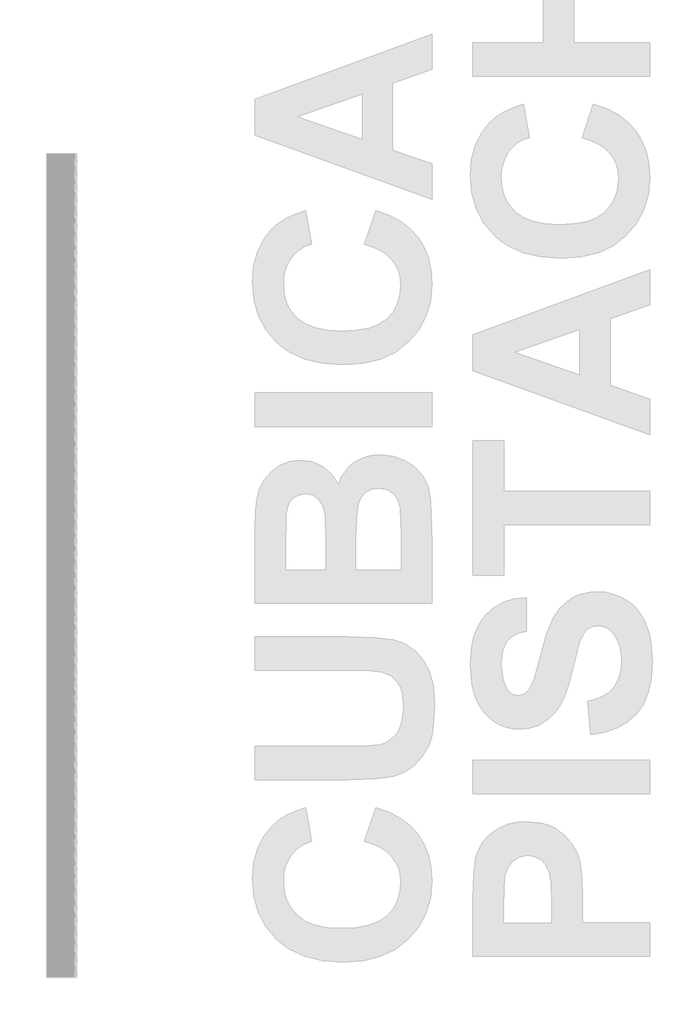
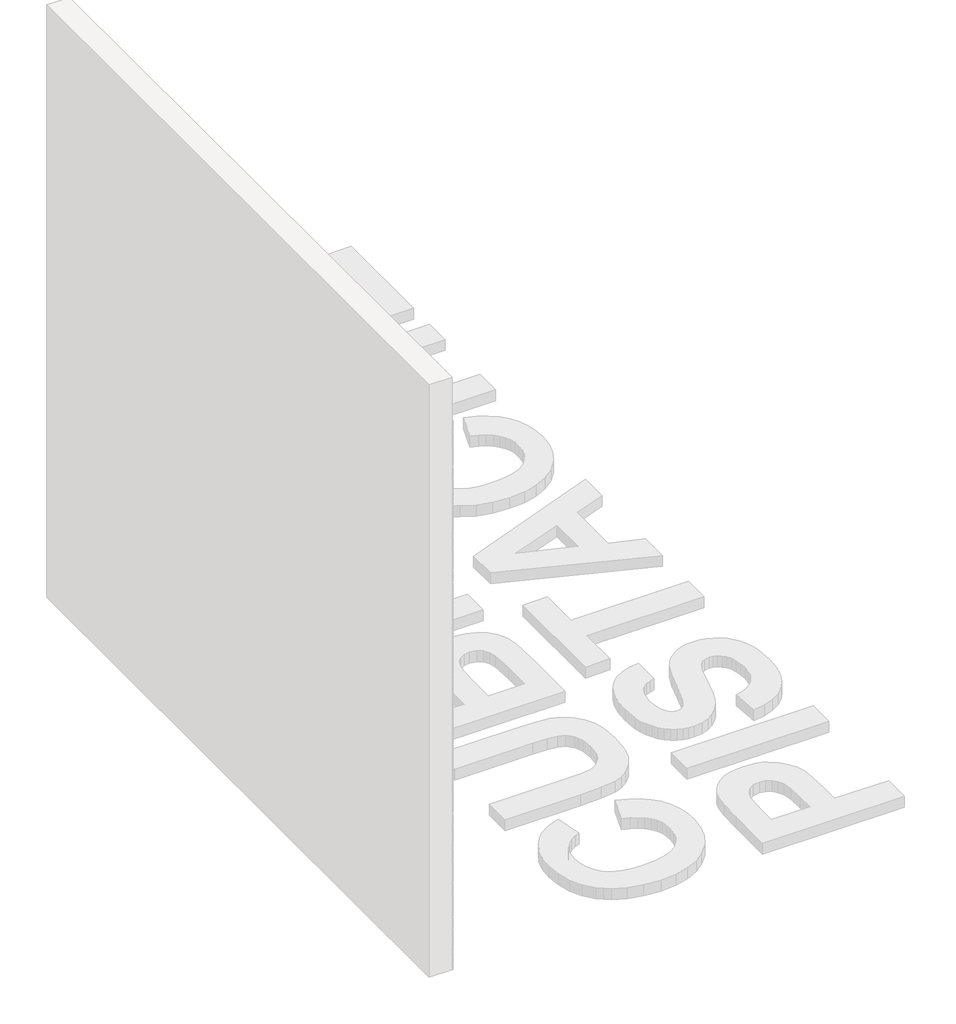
# One storey, part 76 of 121: 145 proxies.
"""IFC4 building model written with IfcOpenShell, lengths in millimetres."""

from ifc_helpers import new_model, si_unit, origin, place, context, project, spatial, transform, mapped, element, save
from components import generic_models_b2b2c5c1, generic_models_9bf73f6f, generic_models_5d175859

model = new_model("IFC4")

# Units and contexts
model_context = context("Model", 3, world=origin())
ifc_project = project(units=[si_unit("LENGTHUNIT", "METRE", prefix="MILLI")], contexts=[model_context])

# Site, building, storey
site = spatial("IfcSite", under=ifc_project)
building = spatial("IfcBuilding", under=site)
storey = spatial("IfcBuildingStorey", under=building, Name="PORTOBELLO - SHOWROOM", Elevation=0.0)

# Proxies
placement = place(None, origin())
generic_models_shape = generic_models_b2b2c5c1(model_context)
element("IfcBuildingElementProxy", 1, Name="PBSHOP - CUBICA PISTACHE 4,8X8,3 : CUBICA PISTACHE - POSIÇÃO 01", ObjectType="PBSHOP - CUBICA PISTACHE 4,8X8,3 : CUBICA PISTACHE - POSIÇÃO 01", at=placement, inside=storey, context=model_context, shape_type="MappedRepresentation", body=[
    mapped(generic_models_shape, transform((150369.5341846, 13932.0386111, 118.3568052), x_axis=(0.0, 1.0, 0.0), y_axis=(0.0, 0.0, 1.0), z_axis=(1.0, 0.0, 0.0))),
])
element("IfcBuildingElementProxy", 2, Name="PBSHOP - CUBICA PISTACHE 4,8X8,3 : CUBICA PISTACHE - POSIÇÃO 01", ObjectType="PBSHOP - CUBICA PISTACHE 4,8X8,3 : CUBICA PISTACHE - POSIÇÃO 01", at=placement, inside=storey, context=model_context, shape_type="MappedRepresentation", body=[
    mapped(generic_models_shape, transform((150369.5341846, 13069.0655533, 197.2914436), x_axis=(0.0, 1.0, 0.0), y_axis=(0.0, 0.0, 1.0), z_axis=(1.0, 0.0, 0.0))),
])
element("IfcBuildingElementProxy", 3, Name="PBSHOP - CUBICA PISTACHE 4,8X8,3 : CUBICA PISTACHE - POSIÇÃO 01", ObjectType="PBSHOP - CUBICA PISTACHE 4,8X8,3 : CUBICA PISTACHE - POSIÇÃO 01", at=placement, inside=storey, context=model_context, shape_type="MappedRepresentation", body=[
    mapped(generic_models_shape, transform((150369.5341846, 13159.9048225, 197.2914436), x_axis=(0.0, 1.0, 0.0), y_axis=(0.0, 0.0, 1.0), z_axis=(1.0, 0.0, 0.0))),
])
element("IfcBuildingElementProxy", 4, Name="PBSHOP - CUBICA PISTACHE 4,8X8,3 : CUBICA PISTACHE - POSIÇÃO 01", ObjectType="PBSHOP - CUBICA PISTACHE 4,8X8,3 : CUBICA PISTACHE - POSIÇÃO 01", at=placement, inside=storey, context=model_context, shape_type="MappedRepresentation", body=[
    mapped(generic_models_shape, transform((150369.5341846, 13250.7440918, 197.2914436), x_axis=(0.0, 1.0, 0.0), y_axis=(0.0, 0.0, 1.0), z_axis=(1.0, 0.0, 0.0))),
])
element("IfcBuildingElementProxy", 5, Name="PBSHOP - CUBICA PISTACHE 4,8X8,3 : CUBICA PISTACHE - POSIÇÃO 01", ObjectType="PBSHOP - CUBICA PISTACHE 4,8X8,3 : CUBICA PISTACHE - POSIÇÃO 01", at=placement, inside=storey, context=model_context, shape_type="MappedRepresentation", body=[
    mapped(generic_models_shape, transform((150369.5341846, 13341.583361, 197.2914436), x_axis=(0.0, 1.0, 0.0), y_axis=(0.0, 0.0, 1.0), z_axis=(1.0, 0.0, 0.0))),
])
element("IfcBuildingElementProxy", 6, Name="PBSHOP - CUBICA PISTACHE 4,8X8,3 : CUBICA PISTACHE - POSIÇÃO 01", ObjectType="PBSHOP - CUBICA PISTACHE 4,8X8,3 : CUBICA PISTACHE - POSIÇÃO 01", at=placement, inside=storey, context=model_context, shape_type="MappedRepresentation", body=[
    mapped(generic_models_shape, transform((150369.5341846, 13432.4226303, 197.2914436), x_axis=(0.0, 1.0, 0.0), y_axis=(0.0, 0.0, 1.0), z_axis=(1.0, 0.0, 0.0))),
])
element("IfcBuildingElementProxy", 7, Name="PBSHOP - CUBICA PISTACHE 4,8X8,3 : CUBICA PISTACHE - POSIÇÃO 01", ObjectType="PBSHOP - CUBICA PISTACHE 4,8X8,3 : CUBICA PISTACHE - POSIÇÃO 01", at=placement, inside=storey, context=model_context, shape_type="MappedRepresentation", body=[
    mapped(generic_models_shape, transform((150369.5341846, 13523.2618995, 197.2914436), x_axis=(0.0, 1.0, 0.0), y_axis=(0.0, 0.0, 1.0), z_axis=(1.0, 0.0, 0.0))),
])
element("IfcBuildingElementProxy", 8, Name="PBSHOP - CUBICA PISTACHE 4,8X8,3 : CUBICA PISTACHE - POSIÇÃO 01", ObjectType="PBSHOP - CUBICA PISTACHE 4,8X8,3 : CUBICA PISTACHE - POSIÇÃO 01", at=placement, inside=storey, context=model_context, shape_type="MappedRepresentation", body=[
    mapped(generic_models_shape, transform((150369.5341846, 13614.1011688, 197.2914436), x_axis=(0.0, 1.0, 0.0), y_axis=(0.0, 0.0, 1.0), z_axis=(1.0, 0.0, 0.0))),
])
element("IfcBuildingElementProxy", 9, Name="PBSHOP - CUBICA PISTACHE 4,8X8,3 : CUBICA PISTACHE - POSIÇÃO 01", ObjectType="PBSHOP - CUBICA PISTACHE 4,8X8,3 : CUBICA PISTACHE - POSIÇÃO 01", at=placement, inside=storey, context=model_context, shape_type="MappedRepresentation", body=[
    mapped(generic_models_shape, transform((150369.5341846, 13704.940438, 197.2914436), x_axis=(0.0, 1.0, 0.0), y_axis=(0.0, 0.0, 1.0), z_axis=(1.0, 0.0, 0.0))),
])
element("IfcBuildingElementProxy", 10, Name="PBSHOP - CUBICA PISTACHE 4,8X8,3 : CUBICA PISTACHE - POSIÇÃO 01", ObjectType="PBSHOP - CUBICA PISTACHE 4,8X8,3 : CUBICA PISTACHE - POSIÇÃO 01", at=placement, inside=storey, context=model_context, shape_type="MappedRepresentation", body=[
    mapped(generic_models_shape, transform((150369.5341846, 13795.7797073, 197.2914436), x_axis=(0.0, 1.0, 0.0), y_axis=(0.0, 0.0, 1.0), z_axis=(1.0, 0.0, 0.0))),
])
element("IfcBuildingElementProxy", 11, Name="PBSHOP - CUBICA PISTACHE 4,8X8,3 : CUBICA PISTACHE - POSIÇÃO 01", ObjectType="PBSHOP - CUBICA PISTACHE 4,8X8,3 : CUBICA PISTACHE - POSIÇÃO 01", at=placement, inside=storey, context=model_context, shape_type="MappedRepresentation", body=[
    mapped(generic_models_shape, transform((150369.5341846, 13886.6189765, 197.2914436), x_axis=(0.0, 1.0, 0.0), y_axis=(0.0, 0.0, 1.0), z_axis=(1.0, 0.0, 0.0))),
])
element("IfcBuildingElementProxy", 12, Name="PBSHOP - CUBICA PISTACHE 4,8X8,3 : CUBICA PISTACHE - POSIÇÃO 01", ObjectType="PBSHOP - CUBICA PISTACHE 4,8X8,3 : CUBICA PISTACHE - POSIÇÃO 01", at=placement, inside=storey, context=model_context, shape_type="MappedRepresentation", body=[
    mapped(generic_models_shape, transform((150369.5341846, 13977.4582457, 197.2914436), x_axis=(0.0, 1.0, 0.0), y_axis=(0.0, 0.0, 1.0), z_axis=(1.0, 0.0, 0.0))),
])
element("IfcBuildingElementProxy", 13, Name="PBSHOP - CUBICA PISTACHE 4,8X8,3 : CUBICA PISTACHE - POSIÇÃO 01", ObjectType="PBSHOP - CUBICA PISTACHE 4,8X8,3 : CUBICA PISTACHE - POSIÇÃO 01", at=placement, inside=storey, context=model_context, shape_type="MappedRepresentation", body=[
    mapped(generic_models_shape, transform((150369.5341846, 13023.6459187, 276.2260819), x_axis=(0.0, 1.0, 0.0), y_axis=(0.0, 0.0, 1.0), z_axis=(1.0, 0.0, 0.0))),
])
element("IfcBuildingElementProxy", 14, Name="PBSHOP - CUBICA PISTACHE 4,8X8,3 : CUBICA PISTACHE - POSIÇÃO 01", ObjectType="PBSHOP - CUBICA PISTACHE 4,8X8,3 : CUBICA PISTACHE - POSIÇÃO 01", at=placement, inside=storey, context=model_context, shape_type="MappedRepresentation", body=[
    mapped(generic_models_shape, transform((150369.5341846, 13114.4851879, 276.2260819), x_axis=(0.0, 1.0, 0.0), y_axis=(0.0, 0.0, 1.0), z_axis=(1.0, 0.0, 0.0))),
])
element("IfcBuildingElementProxy", 15, Name="PBSHOP - CUBICA PISTACHE 4,8X8,3 : CUBICA PISTACHE - POSIÇÃO 01", ObjectType="PBSHOP - CUBICA PISTACHE 4,8X8,3 : CUBICA PISTACHE - POSIÇÃO 01", at=placement, inside=storey, context=model_context, shape_type="MappedRepresentation", body=[
    mapped(generic_models_shape, transform((150369.5341846, 13205.3244572, 276.2260819), x_axis=(0.0, 1.0, 0.0), y_axis=(0.0, 0.0, 1.0), z_axis=(1.0, 0.0, 0.0))),
])
element("IfcBuildingElementProxy", 16, Name="PBSHOP - CUBICA PISTACHE 4,8X8,3 : CUBICA PISTACHE - POSIÇÃO 01", ObjectType="PBSHOP - CUBICA PISTACHE 4,8X8,3 : CUBICA PISTACHE - POSIÇÃO 01", at=placement, inside=storey, context=model_context, shape_type="MappedRepresentation", body=[
    mapped(generic_models_shape, transform((150369.5341846, 13296.1637264, 276.2260819), x_axis=(0.0, 1.0, 0.0), y_axis=(0.0, 0.0, 1.0), z_axis=(1.0, 0.0, 0.0))),
])
element("IfcBuildingElementProxy", 17, Name="PBSHOP - CUBICA PISTACHE 4,8X8,3 : CUBICA PISTACHE - POSIÇÃO 01", ObjectType="PBSHOP - CUBICA PISTACHE 4,8X8,3 : CUBICA PISTACHE - POSIÇÃO 01", at=placement, inside=storey, context=model_context, shape_type="MappedRepresentation", body=[
    mapped(generic_models_shape, transform((150369.5341846, 13387.0029957, 276.2260819), x_axis=(0.0, 1.0, 0.0), y_axis=(0.0, 0.0, 1.0), z_axis=(1.0, 0.0, 0.0))),
])
element("IfcBuildingElementProxy", 18, Name="PBSHOP - CUBICA PISTACHE 4,8X8,3 : CUBICA PISTACHE - POSIÇÃO 01", ObjectType="PBSHOP - CUBICA PISTACHE 4,8X8,3 : CUBICA PISTACHE - POSIÇÃO 01", at=placement, inside=storey, context=model_context, shape_type="MappedRepresentation", body=[
    mapped(generic_models_shape, transform((150369.5341846, 13477.8422649, 276.2260819), x_axis=(0.0, 1.0, 0.0), y_axis=(0.0, 0.0, 1.0), z_axis=(1.0, 0.0, 0.0))),
])
element("IfcBuildingElementProxy", 19, Name="PBSHOP - CUBICA PISTACHE 4,8X8,3 : CUBICA PISTACHE - POSIÇÃO 01", ObjectType="PBSHOP - CUBICA PISTACHE 4,8X8,3 : CUBICA PISTACHE - POSIÇÃO 01", at=placement, inside=storey, context=model_context, shape_type="MappedRepresentation", body=[
    mapped(generic_models_shape, transform((150369.5341846, 13568.6815341, 276.2260819), x_axis=(0.0, 1.0, 0.0), y_axis=(0.0, 0.0, 1.0), z_axis=(1.0, 0.0, 0.0))),
])
element("IfcBuildingElementProxy", 20, Name="PBSHOP - CUBICA PISTACHE 4,8X8,3 : CUBICA PISTACHE - POSIÇÃO 01", ObjectType="PBSHOP - CUBICA PISTACHE 4,8X8,3 : CUBICA PISTACHE - POSIÇÃO 01", at=placement, inside=storey, context=model_context, shape_type="MappedRepresentation", body=[
    mapped(generic_models_shape, transform((150369.5341846, 13659.5208034, 276.2260819), x_axis=(0.0, 1.0, 0.0), y_axis=(0.0, 0.0, 1.0), z_axis=(1.0, 0.0, 0.0))),
])
element("IfcBuildingElementProxy", 21, Name="PBSHOP - CUBICA PISTACHE 4,8X8,3 : CUBICA PISTACHE - POSIÇÃO 01", ObjectType="PBSHOP - CUBICA PISTACHE 4,8X8,3 : CUBICA PISTACHE - POSIÇÃO 01", at=placement, inside=storey, context=model_context, shape_type="MappedRepresentation", body=[
    mapped(generic_models_shape, transform((150369.5341846, 13750.3600726, 276.2260819), x_axis=(0.0, 1.0, 0.0), y_axis=(0.0, 0.0, 1.0), z_axis=(1.0, 0.0, 0.0))),
])
element("IfcBuildingElementProxy", 22, Name="PBSHOP - CUBICA PISTACHE 4,8X8,3 : CUBICA PISTACHE - POSIÇÃO 01", ObjectType="PBSHOP - CUBICA PISTACHE 4,8X8,3 : CUBICA PISTACHE - POSIÇÃO 01", at=placement, inside=storey, context=model_context, shape_type="MappedRepresentation", body=[
    mapped(generic_models_shape, transform((150369.5341846, 13841.1993419, 276.2260819), x_axis=(0.0, 1.0, 0.0), y_axis=(0.0, 0.0, 1.0), z_axis=(1.0, 0.0, 0.0))),
])
element("IfcBuildingElementProxy", 23, Name="PBSHOP - CUBICA PISTACHE 4,8X8,3 : CUBICA PISTACHE - POSIÇÃO 01", ObjectType="PBSHOP - CUBICA PISTACHE 4,8X8,3 : CUBICA PISTACHE - POSIÇÃO 01", at=placement, inside=storey, context=model_context, shape_type="MappedRepresentation", body=[
    mapped(generic_models_shape, transform((150369.5341846, 13932.0386111, 276.2260819), x_axis=(0.0, 1.0, 0.0), y_axis=(0.0, 0.0, 1.0), z_axis=(1.0, 0.0, 0.0))),
])
element("IfcBuildingElementProxy", 24, Name="PBSHOP - CUBICA PISTACHE 4,8X8,3 : CUBICA PISTACHE - POSIÇÃO 01", ObjectType="PBSHOP - CUBICA PISTACHE 4,8X8,3 : CUBICA PISTACHE - POSIÇÃO 01", at=placement, inside=storey, context=model_context, shape_type="MappedRepresentation", body=[
    mapped(generic_models_shape, transform((150369.5341846, 13069.0655533, 355.1607203), x_axis=(0.0, 1.0, 0.0), y_axis=(0.0, 0.0, 1.0), z_axis=(1.0, 0.0, 0.0))),
])
element("IfcBuildingElementProxy", 25, Name="PBSHOP - CUBICA PISTACHE 4,8X8,3 : CUBICA PISTACHE - POSIÇÃO 01", ObjectType="PBSHOP - CUBICA PISTACHE 4,8X8,3 : CUBICA PISTACHE - POSIÇÃO 01", at=placement, inside=storey, context=model_context, shape_type="MappedRepresentation", body=[
    mapped(generic_models_shape, transform((150369.5341846, 13159.9048225, 355.1607203), x_axis=(0.0, 1.0, 0.0), y_axis=(0.0, 0.0, 1.0), z_axis=(1.0, 0.0, 0.0))),
])
element("IfcBuildingElementProxy", 26, Name="PBSHOP - CUBICA PISTACHE 4,8X8,3 : CUBICA PISTACHE - POSIÇÃO 01", ObjectType="PBSHOP - CUBICA PISTACHE 4,8X8,3 : CUBICA PISTACHE - POSIÇÃO 01", at=placement, inside=storey, context=model_context, shape_type="MappedRepresentation", body=[
    mapped(generic_models_shape, transform((150369.5341846, 13250.7440918, 355.1607203), x_axis=(0.0, 1.0, 0.0), y_axis=(0.0, 0.0, 1.0), z_axis=(1.0, 0.0, 0.0))),
])
element("IfcBuildingElementProxy", 27, Name="PBSHOP - CUBICA PISTACHE 4,8X8,3 : CUBICA PISTACHE - POSIÇÃO 01", ObjectType="PBSHOP - CUBICA PISTACHE 4,8X8,3 : CUBICA PISTACHE - POSIÇÃO 01", at=placement, inside=storey, context=model_context, shape_type="MappedRepresentation", body=[
    mapped(generic_models_shape, transform((150369.5341846, 13341.583361, 355.1607203), x_axis=(0.0, 1.0, 0.0), y_axis=(0.0, 0.0, 1.0), z_axis=(1.0, 0.0, 0.0))),
])
element("IfcBuildingElementProxy", 28, Name="PBSHOP - CUBICA PISTACHE 4,8X8,3 : CUBICA PISTACHE - POSIÇÃO 01", ObjectType="PBSHOP - CUBICA PISTACHE 4,8X8,3 : CUBICA PISTACHE - POSIÇÃO 01", at=placement, inside=storey, context=model_context, shape_type="MappedRepresentation", body=[
    mapped(generic_models_shape, transform((150369.5341846, 13432.4226303, 355.1607203), x_axis=(0.0, 1.0, 0.0), y_axis=(0.0, 0.0, 1.0), z_axis=(1.0, 0.0, 0.0))),
])
element("IfcBuildingElementProxy", 29, Name="PBSHOP - CUBICA PISTACHE 4,8X8,3 : CUBICA PISTACHE - POSIÇÃO 01", ObjectType="PBSHOP - CUBICA PISTACHE 4,8X8,3 : CUBICA PISTACHE - POSIÇÃO 01", at=placement, inside=storey, context=model_context, shape_type="MappedRepresentation", body=[
    mapped(generic_models_shape, transform((150369.5341846, 13523.2618995, 355.1607203), x_axis=(0.0, 1.0, 0.0), y_axis=(0.0, 0.0, 1.0), z_axis=(1.0, 0.0, 0.0))),
])
element("IfcBuildingElementProxy", 30, Name="PBSHOP - CUBICA PISTACHE 4,8X8,3 : CUBICA PISTACHE - POSIÇÃO 01", ObjectType="PBSHOP - CUBICA PISTACHE 4,8X8,3 : CUBICA PISTACHE - POSIÇÃO 01", at=placement, inside=storey, context=model_context, shape_type="MappedRepresentation", body=[
    mapped(generic_models_shape, transform((150369.5341846, 13614.1011688, 355.1607203), x_axis=(0.0, 1.0, 0.0), y_axis=(0.0, 0.0, 1.0), z_axis=(1.0, 0.0, 0.0))),
])
element("IfcBuildingElementProxy", 31, Name="PBSHOP - CUBICA PISTACHE 4,8X8,3 : CUBICA PISTACHE - POSIÇÃO 01", ObjectType="PBSHOP - CUBICA PISTACHE 4,8X8,3 : CUBICA PISTACHE - POSIÇÃO 01", at=placement, inside=storey, context=model_context, shape_type="MappedRepresentation", body=[
    mapped(generic_models_shape, transform((150369.5341846, 13704.940438, 355.1607203), x_axis=(0.0, 1.0, 0.0), y_axis=(0.0, 0.0, 1.0), z_axis=(1.0, 0.0, 0.0))),
])
element("IfcBuildingElementProxy", 32, Name="PBSHOP - CUBICA PISTACHE 4,8X8,3 : CUBICA PISTACHE - POSIÇÃO 01", ObjectType="PBSHOP - CUBICA PISTACHE 4,8X8,3 : CUBICA PISTACHE - POSIÇÃO 01", at=placement, inside=storey, context=model_context, shape_type="MappedRepresentation", body=[
    mapped(generic_models_shape, transform((150369.5341846, 13795.7797073, 355.1607203), x_axis=(0.0, 1.0, 0.0), y_axis=(0.0, 0.0, 1.0), z_axis=(1.0, 0.0, 0.0))),
])
element("IfcBuildingElementProxy", 33, Name="PBSHOP - CUBICA PISTACHE 4,8X8,3 : CUBICA PISTACHE - POSIÇÃO 01", ObjectType="PBSHOP - CUBICA PISTACHE 4,8X8,3 : CUBICA PISTACHE - POSIÇÃO 01", at=placement, inside=storey, context=model_context, shape_type="MappedRepresentation", body=[
    mapped(generic_models_shape, transform((150369.5341846, 13886.6189765, 355.1607203), x_axis=(0.0, 1.0, 0.0), y_axis=(0.0, 0.0, 1.0), z_axis=(1.0, 0.0, 0.0))),
])
element("IfcBuildingElementProxy", 34, Name="PBSHOP - CUBICA PISTACHE 4,8X8,3 : CUBICA PISTACHE - POSIÇÃO 01", ObjectType="PBSHOP - CUBICA PISTACHE 4,8X8,3 : CUBICA PISTACHE - POSIÇÃO 01", at=placement, inside=storey, context=model_context, shape_type="MappedRepresentation", body=[
    mapped(generic_models_shape, transform((150369.5341846, 13977.4582457, 355.1607203), x_axis=(0.0, 1.0, 0.0), y_axis=(0.0, 0.0, 1.0), z_axis=(1.0, 0.0, 0.0))),
])
element("IfcBuildingElementProxy", 35, Name="PBSHOP - CUBICA PISTACHE 4,8X8,3 : CUBICA PISTACHE - POSIÇÃO 01", ObjectType="PBSHOP - CUBICA PISTACHE 4,8X8,3 : CUBICA PISTACHE - POSIÇÃO 01", at=placement, inside=storey, context=model_context, shape_type="MappedRepresentation", body=[
    mapped(generic_models_shape, transform((150369.5341846, 13023.6459187, 434.0953587), x_axis=(0.0, 1.0, 0.0), y_axis=(0.0, 0.0, 1.0), z_axis=(1.0, 0.0, 0.0))),
])
element("IfcBuildingElementProxy", 36, Name="PBSHOP - CUBICA PISTACHE 4,8X8,3 : CUBICA PISTACHE - POSIÇÃO 01", ObjectType="PBSHOP - CUBICA PISTACHE 4,8X8,3 : CUBICA PISTACHE - POSIÇÃO 01", at=placement, inside=storey, context=model_context, shape_type="MappedRepresentation", body=[
    mapped(generic_models_shape, transform((150369.5341846, 13114.4851879, 434.0953587), x_axis=(0.0, 1.0, 0.0), y_axis=(0.0, 0.0, 1.0), z_axis=(1.0, 0.0, 0.0))),
])
element("IfcBuildingElementProxy", 37, Name="PBSHOP - CUBICA PISTACHE 4,8X8,3 : CUBICA PISTACHE - POSIÇÃO 01", ObjectType="PBSHOP - CUBICA PISTACHE 4,8X8,3 : CUBICA PISTACHE - POSIÇÃO 01", at=placement, inside=storey, context=model_context, shape_type="MappedRepresentation", body=[
    mapped(generic_models_shape, transform((150369.5341846, 13205.3244572, 434.0953587), x_axis=(0.0, 1.0, 0.0), y_axis=(0.0, 0.0, 1.0), z_axis=(1.0, 0.0, 0.0))),
])
element("IfcBuildingElementProxy", 38, Name="PBSHOP - CUBICA PISTACHE 4,8X8,3 : CUBICA PISTACHE - POSIÇÃO 01", ObjectType="PBSHOP - CUBICA PISTACHE 4,8X8,3 : CUBICA PISTACHE - POSIÇÃO 01", at=placement, inside=storey, context=model_context, shape_type="MappedRepresentation", body=[
    mapped(generic_models_shape, transform((150369.5341846, 13296.1637264, 434.0953587), x_axis=(0.0, 1.0, 0.0), y_axis=(0.0, 0.0, 1.0), z_axis=(1.0, 0.0, 0.0))),
])
element("IfcBuildingElementProxy", 39, Name="PBSHOP - CUBICA PISTACHE 4,8X8,3 : CUBICA PISTACHE - POSIÇÃO 01", ObjectType="PBSHOP - CUBICA PISTACHE 4,8X8,3 : CUBICA PISTACHE - POSIÇÃO 01", at=placement, inside=storey, context=model_context, shape_type="MappedRepresentation", body=[
    mapped(generic_models_shape, transform((150369.5341846, 13387.0029957, 434.0953587), x_axis=(0.0, 1.0, 0.0), y_axis=(0.0, 0.0, 1.0), z_axis=(1.0, 0.0, 0.0))),
])
element("IfcBuildingElementProxy", 40, Name="PBSHOP - CUBICA PISTACHE 4,8X8,3 : CUBICA PISTACHE - POSIÇÃO 01", ObjectType="PBSHOP - CUBICA PISTACHE 4,8X8,3 : CUBICA PISTACHE - POSIÇÃO 01", at=placement, inside=storey, context=model_context, shape_type="MappedRepresentation", body=[
    mapped(generic_models_shape, transform((150369.5341846, 13477.8422649, 434.0953587), x_axis=(0.0, 1.0, 0.0), y_axis=(0.0, 0.0, 1.0), z_axis=(1.0, 0.0, 0.0))),
])
element("IfcBuildingElementProxy", 41, Name="PBSHOP - CUBICA PISTACHE 4,8X8,3 : CUBICA PISTACHE - POSIÇÃO 01", ObjectType="PBSHOP - CUBICA PISTACHE 4,8X8,3 : CUBICA PISTACHE - POSIÇÃO 01", at=placement, inside=storey, context=model_context, shape_type="MappedRepresentation", body=[
    mapped(generic_models_shape, transform((150369.5341846, 13568.6815341, 434.0953587), x_axis=(0.0, 1.0, 0.0), y_axis=(0.0, 0.0, 1.0), z_axis=(1.0, 0.0, 0.0))),
])
element("IfcBuildingElementProxy", 42, Name="PBSHOP - CUBICA PISTACHE 4,8X8,3 : CUBICA PISTACHE - POSIÇÃO 01", ObjectType="PBSHOP - CUBICA PISTACHE 4,8X8,3 : CUBICA PISTACHE - POSIÇÃO 01", at=placement, inside=storey, context=model_context, shape_type="MappedRepresentation", body=[
    mapped(generic_models_shape, transform((150369.5341846, 13659.5208034, 434.0953587), x_axis=(0.0, 1.0, 0.0), y_axis=(0.0, 0.0, 1.0), z_axis=(1.0, 0.0, 0.0))),
])
element("IfcBuildingElementProxy", 43, Name="PBSHOP - CUBICA PISTACHE 4,8X8,3 : CUBICA PISTACHE - POSIÇÃO 01", ObjectType="PBSHOP - CUBICA PISTACHE 4,8X8,3 : CUBICA PISTACHE - POSIÇÃO 01", at=placement, inside=storey, context=model_context, shape_type="MappedRepresentation", body=[
    mapped(generic_models_shape, transform((150369.5341846, 13750.3600726, 434.0953587), x_axis=(0.0, 1.0, 0.0), y_axis=(0.0, 0.0, 1.0), z_axis=(1.0, 0.0, 0.0))),
])
element("IfcBuildingElementProxy", 44, Name="PBSHOP - CUBICA PISTACHE 4,8X8,3 : CUBICA PISTACHE - POSIÇÃO 01", ObjectType="PBSHOP - CUBICA PISTACHE 4,8X8,3 : CUBICA PISTACHE - POSIÇÃO 01", at=placement, inside=storey, context=model_context, shape_type="MappedRepresentation", body=[
    mapped(generic_models_shape, transform((150369.5341846, 13841.1993419, 434.0953587), x_axis=(0.0, 1.0, 0.0), y_axis=(0.0, 0.0, 1.0), z_axis=(1.0, 0.0, 0.0))),
])
element("IfcBuildingElementProxy", 45, Name="PBSHOP - CUBICA PISTACHE 4,8X8,3 : CUBICA PISTACHE - POSIÇÃO 01", ObjectType="PBSHOP - CUBICA PISTACHE 4,8X8,3 : CUBICA PISTACHE - POSIÇÃO 01", at=placement, inside=storey, context=model_context, shape_type="MappedRepresentation", body=[
    mapped(generic_models_shape, transform((150369.5341846, 13932.0386111, 434.0953587), x_axis=(0.0, 1.0, 0.0), y_axis=(0.0, 0.0, 1.0), z_axis=(1.0, 0.0, 0.0))),
])
generic_models_2_shape = generic_models_9bf73f6f(model_context)
element("IfcBuildingElementProxy", 46, Name="PBSHOP - CUBICA PISTACHE 4,8X8,3 : CUBICA PISTACHE - POSIÇÃO 03", ObjectType="PBSHOP - CUBICA PISTACHE 4,8X8,3 : CUBICA PISTACHE - POSIÇÃO 03", at=placement, inside=storey, context=model_context, shape_type="MappedRepresentation", body=[
    mapped(generic_models_2_shape, transform((150369.5341846, 13000.9382605, 78.8482756), x_axis=(0.0, 1.0, 0.0), y_axis=(0.0, 0.0, 1.0), z_axis=(1.0, 0.0, 0.0))),
])
element("IfcBuildingElementProxy", 47, Name="PBSHOP - CUBICA PISTACHE 4,8X8,3 : CUBICA PISTACHE - POSIÇÃO 03", ObjectType="PBSHOP - CUBICA PISTACHE 4,8X8,3 : CUBICA PISTACHE - POSIÇÃO 03", at=placement, inside=storey, context=model_context, shape_type="MappedRepresentation", body=[
    mapped(generic_models_2_shape, transform((150369.5341846, 13091.7775298, 78.8482756), x_axis=(0.0, 1.0, 0.0), y_axis=(0.0, 0.0, 1.0), z_axis=(1.0, 0.0, 0.0))),
])
element("IfcBuildingElementProxy", 48, Name="PBSHOP - CUBICA PISTACHE 4,8X8,3 : CUBICA PISTACHE - POSIÇÃO 03", ObjectType="PBSHOP - CUBICA PISTACHE 4,8X8,3 : CUBICA PISTACHE - POSIÇÃO 03", at=placement, inside=storey, context=model_context, shape_type="MappedRepresentation", body=[
    mapped(generic_models_2_shape, transform((150369.5341846, 13182.616799, 78.8482756), x_axis=(0.0, 1.0, 0.0), y_axis=(0.0, 0.0, 1.0), z_axis=(1.0, 0.0, 0.0))),
])
element("IfcBuildingElementProxy", 49, Name="PBSHOP - CUBICA PISTACHE 4,8X8,3 : CUBICA PISTACHE - POSIÇÃO 03", ObjectType="PBSHOP - CUBICA PISTACHE 4,8X8,3 : CUBICA PISTACHE - POSIÇÃO 03", at=placement, inside=storey, context=model_context, shape_type="MappedRepresentation", body=[
    mapped(generic_models_2_shape, transform((150369.5341846, 13273.4560683, 78.8482756), x_axis=(0.0, 1.0, 0.0), y_axis=(0.0, 0.0, 1.0), z_axis=(1.0, 0.0, 0.0))),
])
element("IfcBuildingElementProxy", 50, Name="PBSHOP - CUBICA PISTACHE 4,8X8,3 : CUBICA PISTACHE - POSIÇÃO 03", ObjectType="PBSHOP - CUBICA PISTACHE 4,8X8,3 : CUBICA PISTACHE - POSIÇÃO 03", at=placement, inside=storey, context=model_context, shape_type="MappedRepresentation", body=[
    mapped(generic_models_2_shape, transform((150369.5341846, 13364.2953375, 78.8482756), x_axis=(0.0, 1.0, 0.0), y_axis=(0.0, 0.0, 1.0), z_axis=(1.0, 0.0, 0.0))),
])
element("IfcBuildingElementProxy", 51, Name="PBSHOP - CUBICA PISTACHE 4,8X8,3 : CUBICA PISTACHE - POSIÇÃO 03", ObjectType="PBSHOP - CUBICA PISTACHE 4,8X8,3 : CUBICA PISTACHE - POSIÇÃO 03", at=placement, inside=storey, context=model_context, shape_type="MappedRepresentation", body=[
    mapped(generic_models_2_shape, transform((150369.5341846, 13455.1346068, 78.8482756), x_axis=(0.0, 1.0, 0.0), y_axis=(0.0, 0.0, 1.0), z_axis=(1.0, 0.0, 0.0))),
])
element("IfcBuildingElementProxy", 52, Name="PBSHOP - CUBICA PISTACHE 4,8X8,3 : CUBICA PISTACHE - POSIÇÃO 03", ObjectType="PBSHOP - CUBICA PISTACHE 4,8X8,3 : CUBICA PISTACHE - POSIÇÃO 03", at=placement, inside=storey, context=model_context, shape_type="MappedRepresentation", body=[
    mapped(generic_models_2_shape, transform((150369.5341846, 13545.973876, 78.8482756), x_axis=(0.0, 1.0, 0.0), y_axis=(0.0, 0.0, 1.0), z_axis=(1.0, 0.0, 0.0))),
])
element("IfcBuildingElementProxy", 53, Name="PBSHOP - CUBICA PISTACHE 4,8X8,3 : CUBICA PISTACHE - POSIÇÃO 03", ObjectType="PBSHOP - CUBICA PISTACHE 4,8X8,3 : CUBICA PISTACHE - POSIÇÃO 03", at=placement, inside=storey, context=model_context, shape_type="MappedRepresentation", body=[
    mapped(generic_models_2_shape, transform((150369.5341846, 13636.8131452, 78.8482756), x_axis=(0.0, 1.0, 0.0), y_axis=(0.0, 0.0, 1.0), z_axis=(1.0, 0.0, 0.0))),
])
element("IfcBuildingElementProxy", 54, Name="PBSHOP - CUBICA PISTACHE 4,8X8,3 : CUBICA PISTACHE - POSIÇÃO 03", ObjectType="PBSHOP - CUBICA PISTACHE 4,8X8,3 : CUBICA PISTACHE - POSIÇÃO 03", at=placement, inside=storey, context=model_context, shape_type="MappedRepresentation", body=[
    mapped(generic_models_2_shape, transform((150369.5341846, 13727.6524145, 78.8482756), x_axis=(0.0, 1.0, 0.0), y_axis=(0.0, 0.0, 1.0), z_axis=(1.0, 0.0, 0.0))),
])
element("IfcBuildingElementProxy", 55, Name="PBSHOP - CUBICA PISTACHE 4,8X8,3 : CUBICA PISTACHE - POSIÇÃO 03", ObjectType="PBSHOP - CUBICA PISTACHE 4,8X8,3 : CUBICA PISTACHE - POSIÇÃO 03", at=placement, inside=storey, context=model_context, shape_type="MappedRepresentation", body=[
    mapped(generic_models_2_shape, transform((150369.5341846, 13818.4916837, 78.8482756), x_axis=(0.0, 1.0, 0.0), y_axis=(0.0, 0.0, 1.0), z_axis=(1.0, 0.0, 0.0))),
])
element("IfcBuildingElementProxy", 56, Name="PBSHOP - CUBICA PISTACHE 4,8X8,3 : CUBICA PISTACHE - POSIÇÃO 03", ObjectType="PBSHOP - CUBICA PISTACHE 4,8X8,3 : CUBICA PISTACHE - POSIÇÃO 03", at=placement, inside=storey, context=model_context, shape_type="MappedRepresentation", body=[
    mapped(generic_models_2_shape, transform((150369.5341846, 13909.330953, 78.8482756), x_axis=(0.0, 1.0, 0.0), y_axis=(0.0, 0.0, 1.0), z_axis=(1.0, 0.0, 0.0))),
])
element("IfcBuildingElementProxy", 57, Name="PBSHOP - CUBICA PISTACHE 4,8X8,3 : CUBICA PISTACHE - POSIÇÃO 03", ObjectType="PBSHOP - CUBICA PISTACHE 4,8X8,3 : CUBICA PISTACHE - POSIÇÃO 03", at=placement, inside=storey, context=model_context, shape_type="MappedRepresentation", body=[
    mapped(generic_models_2_shape, transform((150369.5341846, 13046.3578952, 157.7829139), x_axis=(0.0, 1.0, 0.0), y_axis=(0.0, 0.0, 1.0), z_axis=(1.0, 0.0, 0.0))),
])
element("IfcBuildingElementProxy", 58, Name="PBSHOP - CUBICA PISTACHE 4,8X8,3 : CUBICA PISTACHE - POSIÇÃO 03", ObjectType="PBSHOP - CUBICA PISTACHE 4,8X8,3 : CUBICA PISTACHE - POSIÇÃO 03", at=placement, inside=storey, context=model_context, shape_type="MappedRepresentation", body=[
    mapped(generic_models_2_shape, transform((150369.5341846, 13137.1971644, 157.7829139), x_axis=(0.0, 1.0, 0.0), y_axis=(0.0, 0.0, 1.0), z_axis=(1.0, 0.0, 0.0))),
])
element("IfcBuildingElementProxy", 59, Name="PBSHOP - CUBICA PISTACHE 4,8X8,3 : CUBICA PISTACHE - POSIÇÃO 03", ObjectType="PBSHOP - CUBICA PISTACHE 4,8X8,3 : CUBICA PISTACHE - POSIÇÃO 03", at=placement, inside=storey, context=model_context, shape_type="MappedRepresentation", body=[
    mapped(generic_models_2_shape, transform((150369.5341846, 13228.0364336, 157.7829139), x_axis=(0.0, 1.0, 0.0), y_axis=(0.0, 0.0, 1.0), z_axis=(1.0, 0.0, 0.0))),
])
element("IfcBuildingElementProxy", 60, Name="PBSHOP - CUBICA PISTACHE 4,8X8,3 : CUBICA PISTACHE - POSIÇÃO 03", ObjectType="PBSHOP - CUBICA PISTACHE 4,8X8,3 : CUBICA PISTACHE - POSIÇÃO 03", at=placement, inside=storey, context=model_context, shape_type="MappedRepresentation", body=[
    mapped(generic_models_2_shape, transform((150369.5341846, 13318.8757029, 157.7829139), x_axis=(0.0, 1.0, 0.0), y_axis=(0.0, 0.0, 1.0), z_axis=(1.0, 0.0, 0.0))),
])
element("IfcBuildingElementProxy", 61, Name="PBSHOP - CUBICA PISTACHE 4,8X8,3 : CUBICA PISTACHE - POSIÇÃO 03", ObjectType="PBSHOP - CUBICA PISTACHE 4,8X8,3 : CUBICA PISTACHE - POSIÇÃO 03", at=placement, inside=storey, context=model_context, shape_type="MappedRepresentation", body=[
    mapped(generic_models_2_shape, transform((150369.5341846, 13409.7149721, 157.7829139), x_axis=(0.0, 1.0, 0.0), y_axis=(0.0, 0.0, 1.0), z_axis=(1.0, 0.0, 0.0))),
])
element("IfcBuildingElementProxy", 62, Name="PBSHOP - CUBICA PISTACHE 4,8X8,3 : CUBICA PISTACHE - POSIÇÃO 03", ObjectType="PBSHOP - CUBICA PISTACHE 4,8X8,3 : CUBICA PISTACHE - POSIÇÃO 03", at=placement, inside=storey, context=model_context, shape_type="MappedRepresentation", body=[
    mapped(generic_models_2_shape, transform((150369.5341846, 13500.5542414, 157.7829139), x_axis=(0.0, 1.0, 0.0), y_axis=(0.0, 0.0, 1.0), z_axis=(1.0, 0.0, 0.0))),
])
element("IfcBuildingElementProxy", 63, Name="PBSHOP - CUBICA PISTACHE 4,8X8,3 : CUBICA PISTACHE - POSIÇÃO 03", ObjectType="PBSHOP - CUBICA PISTACHE 4,8X8,3 : CUBICA PISTACHE - POSIÇÃO 03", at=placement, inside=storey, context=model_context, shape_type="MappedRepresentation", body=[
    mapped(generic_models_2_shape, transform((150369.5341846, 13591.3935106, 157.7829139), x_axis=(0.0, 1.0, 0.0), y_axis=(0.0, 0.0, 1.0), z_axis=(1.0, 0.0, 0.0))),
])
element("IfcBuildingElementProxy", 64, Name="PBSHOP - CUBICA PISTACHE 4,8X8,3 : CUBICA PISTACHE - POSIÇÃO 03", ObjectType="PBSHOP - CUBICA PISTACHE 4,8X8,3 : CUBICA PISTACHE - POSIÇÃO 03", at=placement, inside=storey, context=model_context, shape_type="MappedRepresentation", body=[
    mapped(generic_models_2_shape, transform((150369.5341846, 13682.2327799, 157.7829139), x_axis=(0.0, 1.0, 0.0), y_axis=(0.0, 0.0, 1.0), z_axis=(1.0, 0.0, 0.0))),
])
element("IfcBuildingElementProxy", 65, Name="PBSHOP - CUBICA PISTACHE 4,8X8,3 : CUBICA PISTACHE - POSIÇÃO 03", ObjectType="PBSHOP - CUBICA PISTACHE 4,8X8,3 : CUBICA PISTACHE - POSIÇÃO 03", at=placement, inside=storey, context=model_context, shape_type="MappedRepresentation", body=[
    mapped(generic_models_2_shape, transform((150369.5341846, 13773.0720491, 157.7829139), x_axis=(0.0, 1.0, 0.0), y_axis=(0.0, 0.0, 1.0), z_axis=(1.0, 0.0, 0.0))),
])
element("IfcBuildingElementProxy", 66, Name="PBSHOP - CUBICA PISTACHE 4,8X8,3 : CUBICA PISTACHE - POSIÇÃO 03", ObjectType="PBSHOP - CUBICA PISTACHE 4,8X8,3 : CUBICA PISTACHE - POSIÇÃO 03", at=placement, inside=storey, context=model_context, shape_type="MappedRepresentation", body=[
    mapped(generic_models_2_shape, transform((150369.5341846, 13863.9113184, 157.7829139), x_axis=(0.0, 1.0, 0.0), y_axis=(0.0, 0.0, 1.0), z_axis=(1.0, 0.0, 0.0))),
])
element("IfcBuildingElementProxy", 67, Name="PBSHOP - CUBICA PISTACHE 4,8X8,3 : CUBICA PISTACHE - POSIÇÃO 03", ObjectType="PBSHOP - CUBICA PISTACHE 4,8X8,3 : CUBICA PISTACHE - POSIÇÃO 03", at=placement, inside=storey, context=model_context, shape_type="MappedRepresentation", body=[
    mapped(generic_models_2_shape, transform((150369.5341846, 13954.7505876, 157.7829139), x_axis=(0.0, 1.0, 0.0), y_axis=(0.0, 0.0, 1.0), z_axis=(1.0, 0.0, 0.0))),
])
element("IfcBuildingElementProxy", 68, Name="PBSHOP - CUBICA PISTACHE 4,8X8,3 : CUBICA PISTACHE - POSIÇÃO 03", ObjectType="PBSHOP - CUBICA PISTACHE 4,8X8,3 : CUBICA PISTACHE - POSIÇÃO 03", at=placement, inside=storey, context=model_context, shape_type="MappedRepresentation", body=[
    mapped(generic_models_2_shape, transform((150369.5341846, 13000.9382605, 236.7175523), x_axis=(0.0, 1.0, 0.0), y_axis=(0.0, 0.0, 1.0), z_axis=(1.0, 0.0, 0.0))),
])
element("IfcBuildingElementProxy", 69, Name="PBSHOP - CUBICA PISTACHE 4,8X8,3 : CUBICA PISTACHE - POSIÇÃO 03", ObjectType="PBSHOP - CUBICA PISTACHE 4,8X8,3 : CUBICA PISTACHE - POSIÇÃO 03", at=placement, inside=storey, context=model_context, shape_type="MappedRepresentation", body=[
    mapped(generic_models_2_shape, transform((150369.5341846, 13091.7775298, 236.7175523), x_axis=(0.0, 1.0, 0.0), y_axis=(0.0, 0.0, 1.0), z_axis=(1.0, 0.0, 0.0))),
])
element("IfcBuildingElementProxy", 70, Name="PBSHOP - CUBICA PISTACHE 4,8X8,3 : CUBICA PISTACHE - POSIÇÃO 03", ObjectType="PBSHOP - CUBICA PISTACHE 4,8X8,3 : CUBICA PISTACHE - POSIÇÃO 03", at=placement, inside=storey, context=model_context, shape_type="MappedRepresentation", body=[
    mapped(generic_models_2_shape, transform((150369.5341846, 13182.616799, 236.7175523), x_axis=(0.0, 1.0, 0.0), y_axis=(0.0, 0.0, 1.0), z_axis=(1.0, 0.0, 0.0))),
])
element("IfcBuildingElementProxy", 71, Name="PBSHOP - CUBICA PISTACHE 4,8X8,3 : CUBICA PISTACHE - POSIÇÃO 03", ObjectType="PBSHOP - CUBICA PISTACHE 4,8X8,3 : CUBICA PISTACHE - POSIÇÃO 03", at=placement, inside=storey, context=model_context, shape_type="MappedRepresentation", body=[
    mapped(generic_models_2_shape, transform((150369.5341846, 13273.4560683, 236.7175523), x_axis=(0.0, 1.0, 0.0), y_axis=(0.0, 0.0, 1.0), z_axis=(1.0, 0.0, 0.0))),
])
element("IfcBuildingElementProxy", 72, Name="PBSHOP - CUBICA PISTACHE 4,8X8,3 : CUBICA PISTACHE - POSIÇÃO 03", ObjectType="PBSHOP - CUBICA PISTACHE 4,8X8,3 : CUBICA PISTACHE - POSIÇÃO 03", at=placement, inside=storey, context=model_context, shape_type="MappedRepresentation", body=[
    mapped(generic_models_2_shape, transform((150369.5341846, 13364.2953375, 236.7175523), x_axis=(0.0, 1.0, 0.0), y_axis=(0.0, 0.0, 1.0), z_axis=(1.0, 0.0, 0.0))),
])
element("IfcBuildingElementProxy", 73, Name="PBSHOP - CUBICA PISTACHE 4,8X8,3 : CUBICA PISTACHE - POSIÇÃO 03", ObjectType="PBSHOP - CUBICA PISTACHE 4,8X8,3 : CUBICA PISTACHE - POSIÇÃO 03", at=placement, inside=storey, context=model_context, shape_type="MappedRepresentation", body=[
    mapped(generic_models_2_shape, transform((150369.5341846, 13455.1346068, 236.7175523), x_axis=(0.0, 1.0, 0.0), y_axis=(0.0, 0.0, 1.0), z_axis=(1.0, 0.0, 0.0))),
])
element("IfcBuildingElementProxy", 74, Name="PBSHOP - CUBICA PISTACHE 4,8X8,3 : CUBICA PISTACHE - POSIÇÃO 03", ObjectType="PBSHOP - CUBICA PISTACHE 4,8X8,3 : CUBICA PISTACHE - POSIÇÃO 03", at=placement, inside=storey, context=model_context, shape_type="MappedRepresentation", body=[
    mapped(generic_models_2_shape, transform((150369.5341846, 13545.973876, 236.7175523), x_axis=(0.0, 1.0, 0.0), y_axis=(0.0, 0.0, 1.0), z_axis=(1.0, 0.0, 0.0))),
])
element("IfcBuildingElementProxy", 75, Name="PBSHOP - CUBICA PISTACHE 4,8X8,3 : CUBICA PISTACHE - POSIÇÃO 03", ObjectType="PBSHOP - CUBICA PISTACHE 4,8X8,3 : CUBICA PISTACHE - POSIÇÃO 03", at=placement, inside=storey, context=model_context, shape_type="MappedRepresentation", body=[
    mapped(generic_models_2_shape, transform((150369.5341846, 13636.8131452, 236.7175523), x_axis=(0.0, 1.0, 0.0), y_axis=(0.0, 0.0, 1.0), z_axis=(1.0, 0.0, 0.0))),
])
element("IfcBuildingElementProxy", 76, Name="PBSHOP - CUBICA PISTACHE 4,8X8,3 : CUBICA PISTACHE - POSIÇÃO 03", ObjectType="PBSHOP - CUBICA PISTACHE 4,8X8,3 : CUBICA PISTACHE - POSIÇÃO 03", at=placement, inside=storey, context=model_context, shape_type="MappedRepresentation", body=[
    mapped(generic_models_2_shape, transform((150369.5341846, 13727.6524145, 236.7175523), x_axis=(0.0, 1.0, 0.0), y_axis=(0.0, 0.0, 1.0), z_axis=(1.0, 0.0, 0.0))),
])
element("IfcBuildingElementProxy", 77, Name="PBSHOP - CUBICA PISTACHE 4,8X8,3 : CUBICA PISTACHE - POSIÇÃO 03", ObjectType="PBSHOP - CUBICA PISTACHE 4,8X8,3 : CUBICA PISTACHE - POSIÇÃO 03", at=placement, inside=storey, context=model_context, shape_type="MappedRepresentation", body=[
    mapped(generic_models_2_shape, transform((150369.5341846, 13818.4916837, 236.7175523), x_axis=(0.0, 1.0, 0.0), y_axis=(0.0, 0.0, 1.0), z_axis=(1.0, 0.0, 0.0))),
])
element("IfcBuildingElementProxy", 78, Name="PBSHOP - CUBICA PISTACHE 4,8X8,3 : CUBICA PISTACHE - POSIÇÃO 03", ObjectType="PBSHOP - CUBICA PISTACHE 4,8X8,3 : CUBICA PISTACHE - POSIÇÃO 03", at=placement, inside=storey, context=model_context, shape_type="MappedRepresentation", body=[
    mapped(generic_models_2_shape, transform((150369.5341846, 13909.330953, 236.7175523), x_axis=(0.0, 1.0, 0.0), y_axis=(0.0, 0.0, 1.0), z_axis=(1.0, 0.0, 0.0))),
])
element("IfcBuildingElementProxy", 79, Name="PBSHOP - CUBICA PISTACHE 4,8X8,3 : CUBICA PISTACHE - POSIÇÃO 03", ObjectType="PBSHOP - CUBICA PISTACHE 4,8X8,3 : CUBICA PISTACHE - POSIÇÃO 03", at=placement, inside=storey, context=model_context, shape_type="MappedRepresentation", body=[
    mapped(generic_models_2_shape, transform((150369.5341846, 13046.3578952, 315.6521907), x_axis=(0.0, 1.0, 0.0), y_axis=(0.0, 0.0, 1.0), z_axis=(1.0, 0.0, 0.0))),
])
element("IfcBuildingElementProxy", 80, Name="PBSHOP - CUBICA PISTACHE 4,8X8,3 : CUBICA PISTACHE - POSIÇÃO 03", ObjectType="PBSHOP - CUBICA PISTACHE 4,8X8,3 : CUBICA PISTACHE - POSIÇÃO 03", at=placement, inside=storey, context=model_context, shape_type="MappedRepresentation", body=[
    mapped(generic_models_2_shape, transform((150369.5341846, 13137.1971644, 315.6521907), x_axis=(0.0, 1.0, 0.0), y_axis=(0.0, 0.0, 1.0), z_axis=(1.0, 0.0, 0.0))),
])
element("IfcBuildingElementProxy", 81, Name="PBSHOP - CUBICA PISTACHE 4,8X8,3 : CUBICA PISTACHE - POSIÇÃO 03", ObjectType="PBSHOP - CUBICA PISTACHE 4,8X8,3 : CUBICA PISTACHE - POSIÇÃO 03", at=placement, inside=storey, context=model_context, shape_type="MappedRepresentation", body=[
    mapped(generic_models_2_shape, transform((150369.5341846, 13228.0364336, 315.6521907), x_axis=(0.0, 1.0, 0.0), y_axis=(0.0, 0.0, 1.0), z_axis=(1.0, 0.0, 0.0))),
])
element("IfcBuildingElementProxy", 82, Name="PBSHOP - CUBICA PISTACHE 4,8X8,3 : CUBICA PISTACHE - POSIÇÃO 03", ObjectType="PBSHOP - CUBICA PISTACHE 4,8X8,3 : CUBICA PISTACHE - POSIÇÃO 03", at=placement, inside=storey, context=model_context, shape_type="MappedRepresentation", body=[
    mapped(generic_models_2_shape, transform((150369.5341846, 13318.8757029, 315.6521907), x_axis=(0.0, 1.0, 0.0), y_axis=(0.0, 0.0, 1.0), z_axis=(1.0, 0.0, 0.0))),
])
element("IfcBuildingElementProxy", 83, Name="PBSHOP - CUBICA PISTACHE 4,8X8,3 : CUBICA PISTACHE - POSIÇÃO 03", ObjectType="PBSHOP - CUBICA PISTACHE 4,8X8,3 : CUBICA PISTACHE - POSIÇÃO 03", at=placement, inside=storey, context=model_context, shape_type="MappedRepresentation", body=[
    mapped(generic_models_2_shape, transform((150369.5341846, 13409.7149721, 315.6521907), x_axis=(0.0, 1.0, 0.0), y_axis=(0.0, 0.0, 1.0), z_axis=(1.0, 0.0, 0.0))),
])
element("IfcBuildingElementProxy", 84, Name="PBSHOP - CUBICA PISTACHE 4,8X8,3 : CUBICA PISTACHE - POSIÇÃO 03", ObjectType="PBSHOP - CUBICA PISTACHE 4,8X8,3 : CUBICA PISTACHE - POSIÇÃO 03", at=placement, inside=storey, context=model_context, shape_type="MappedRepresentation", body=[
    mapped(generic_models_2_shape, transform((150369.5341846, 13500.5542414, 315.6521907), x_axis=(0.0, 1.0, 0.0), y_axis=(0.0, 0.0, 1.0), z_axis=(1.0, 0.0, 0.0))),
])
element("IfcBuildingElementProxy", 85, Name="PBSHOP - CUBICA PISTACHE 4,8X8,3 : CUBICA PISTACHE - POSIÇÃO 03", ObjectType="PBSHOP - CUBICA PISTACHE 4,8X8,3 : CUBICA PISTACHE - POSIÇÃO 03", at=placement, inside=storey, context=model_context, shape_type="MappedRepresentation", body=[
    mapped(generic_models_2_shape, transform((150369.5341846, 13591.3935106, 315.6521907), x_axis=(0.0, 1.0, 0.0), y_axis=(0.0, 0.0, 1.0), z_axis=(1.0, 0.0, 0.0))),
])
element("IfcBuildingElementProxy", 86, Name="PBSHOP - CUBICA PISTACHE 4,8X8,3 : CUBICA PISTACHE - POSIÇÃO 03", ObjectType="PBSHOP - CUBICA PISTACHE 4,8X8,3 : CUBICA PISTACHE - POSIÇÃO 03", at=placement, inside=storey, context=model_context, shape_type="MappedRepresentation", body=[
    mapped(generic_models_2_shape, transform((150369.5341846, 13682.2327799, 315.6521907), x_axis=(0.0, 1.0, 0.0), y_axis=(0.0, 0.0, 1.0), z_axis=(1.0, 0.0, 0.0))),
])
element("IfcBuildingElementProxy", 87, Name="PBSHOP - CUBICA PISTACHE 4,8X8,3 : CUBICA PISTACHE - POSIÇÃO 03", ObjectType="PBSHOP - CUBICA PISTACHE 4,8X8,3 : CUBICA PISTACHE - POSIÇÃO 03", at=placement, inside=storey, context=model_context, shape_type="MappedRepresentation", body=[
    mapped(generic_models_2_shape, transform((150369.5341846, 13773.0720491, 315.6521907), x_axis=(0.0, 1.0, 0.0), y_axis=(0.0, 0.0, 1.0), z_axis=(1.0, 0.0, 0.0))),
])
element("IfcBuildingElementProxy", 88, Name="PBSHOP - CUBICA PISTACHE 4,8X8,3 : CUBICA PISTACHE - POSIÇÃO 03", ObjectType="PBSHOP - CUBICA PISTACHE 4,8X8,3 : CUBICA PISTACHE - POSIÇÃO 03", at=placement, inside=storey, context=model_context, shape_type="MappedRepresentation", body=[
    mapped(generic_models_2_shape, transform((150369.5341846, 13863.9113184, 315.6521907), x_axis=(0.0, 1.0, 0.0), y_axis=(0.0, 0.0, 1.0), z_axis=(1.0, 0.0, 0.0))),
])
element("IfcBuildingElementProxy", 89, Name="PBSHOP - CUBICA PISTACHE 4,8X8,3 : CUBICA PISTACHE - POSIÇÃO 03", ObjectType="PBSHOP - CUBICA PISTACHE 4,8X8,3 : CUBICA PISTACHE - POSIÇÃO 03", at=placement, inside=storey, context=model_context, shape_type="MappedRepresentation", body=[
    mapped(generic_models_2_shape, transform((150369.5341846, 13954.7505876, 315.6521907), x_axis=(0.0, 1.0, 0.0), y_axis=(0.0, 0.0, 1.0), z_axis=(1.0, 0.0, 0.0))),
])
element("IfcBuildingElementProxy", 90, Name="PBSHOP - CUBICA PISTACHE 4,8X8,3 : CUBICA PISTACHE - POSIÇÃO 03", ObjectType="PBSHOP - CUBICA PISTACHE 4,8X8,3 : CUBICA PISTACHE - POSIÇÃO 03", at=placement, inside=storey, context=model_context, shape_type="MappedRepresentation", body=[
    mapped(generic_models_2_shape, transform((150369.5341846, 13000.9382605, 394.5868291), x_axis=(0.0, 1.0, 0.0), y_axis=(0.0, 0.0, 1.0), z_axis=(1.0, 0.0, 0.0))),
])
element("IfcBuildingElementProxy", 91, Name="PBSHOP - CUBICA PISTACHE 4,8X8,3 : CUBICA PISTACHE - POSIÇÃO 03", ObjectType="PBSHOP - CUBICA PISTACHE 4,8X8,3 : CUBICA PISTACHE - POSIÇÃO 03", at=placement, inside=storey, context=model_context, shape_type="MappedRepresentation", body=[
    mapped(generic_models_2_shape, transform((150369.5341846, 13091.7775298, 394.5868291), x_axis=(0.0, 1.0, 0.0), y_axis=(0.0, 0.0, 1.0), z_axis=(1.0, 0.0, 0.0))),
])
element("IfcBuildingElementProxy", 92, Name="PBSHOP - CUBICA PISTACHE 4,8X8,3 : CUBICA PISTACHE - POSIÇÃO 03", ObjectType="PBSHOP - CUBICA PISTACHE 4,8X8,3 : CUBICA PISTACHE - POSIÇÃO 03", at=placement, inside=storey, context=model_context, shape_type="MappedRepresentation", body=[
    mapped(generic_models_2_shape, transform((150369.5341846, 13182.616799, 394.5868291), x_axis=(0.0, 1.0, 0.0), y_axis=(0.0, 0.0, 1.0), z_axis=(1.0, 0.0, 0.0))),
])
element("IfcBuildingElementProxy", 93, Name="PBSHOP - CUBICA PISTACHE 4,8X8,3 : CUBICA PISTACHE - POSIÇÃO 03", ObjectType="PBSHOP - CUBICA PISTACHE 4,8X8,3 : CUBICA PISTACHE - POSIÇÃO 03", at=placement, inside=storey, context=model_context, shape_type="MappedRepresentation", body=[
    mapped(generic_models_2_shape, transform((150369.5341846, 13273.4560683, 394.5868291), x_axis=(0.0, 1.0, 0.0), y_axis=(0.0, 0.0, 1.0), z_axis=(1.0, 0.0, 0.0))),
])
element("IfcBuildingElementProxy", 94, Name="PBSHOP - CUBICA PISTACHE 4,8X8,3 : CUBICA PISTACHE - POSIÇÃO 03", ObjectType="PBSHOP - CUBICA PISTACHE 4,8X8,3 : CUBICA PISTACHE - POSIÇÃO 03", at=placement, inside=storey, context=model_context, shape_type="MappedRepresentation", body=[
    mapped(generic_models_2_shape, transform((150369.5341846, 13364.2953375, 394.5868291), x_axis=(0.0, 1.0, 0.0), y_axis=(0.0, 0.0, 1.0), z_axis=(1.0, 0.0, 0.0))),
])
element("IfcBuildingElementProxy", 95, Name="PBSHOP - CUBICA PISTACHE 4,8X8,3 : CUBICA PISTACHE - POSIÇÃO 03", ObjectType="PBSHOP - CUBICA PISTACHE 4,8X8,3 : CUBICA PISTACHE - POSIÇÃO 03", at=placement, inside=storey, context=model_context, shape_type="MappedRepresentation", body=[
    mapped(generic_models_2_shape, transform((150369.5341846, 13455.1346068, 394.5868291), x_axis=(0.0, 1.0, 0.0), y_axis=(0.0, 0.0, 1.0), z_axis=(1.0, 0.0, 0.0))),
])
element("IfcBuildingElementProxy", 96, Name="PBSHOP - CUBICA PISTACHE 4,8X8,3 : CUBICA PISTACHE - POSIÇÃO 03", ObjectType="PBSHOP - CUBICA PISTACHE 4,8X8,3 : CUBICA PISTACHE - POSIÇÃO 03", at=placement, inside=storey, context=model_context, shape_type="MappedRepresentation", body=[
    mapped(generic_models_2_shape, transform((150369.5341846, 13545.973876, 394.5868291), x_axis=(0.0, 1.0, 0.0), y_axis=(0.0, 0.0, 1.0), z_axis=(1.0, 0.0, 0.0))),
])
element("IfcBuildingElementProxy", 97, Name="PBSHOP - CUBICA PISTACHE 4,8X8,3 : CUBICA PISTACHE - POSIÇÃO 03", ObjectType="PBSHOP - CUBICA PISTACHE 4,8X8,3 : CUBICA PISTACHE - POSIÇÃO 03", at=placement, inside=storey, context=model_context, shape_type="MappedRepresentation", body=[
    mapped(generic_models_2_shape, transform((150369.5341846, 13636.8131452, 394.5868291), x_axis=(0.0, 1.0, 0.0), y_axis=(0.0, 0.0, 1.0), z_axis=(1.0, 0.0, 0.0))),
])
element("IfcBuildingElementProxy", 98, Name="PBSHOP - CUBICA PISTACHE 4,8X8,3 : CUBICA PISTACHE - POSIÇÃO 03", ObjectType="PBSHOP - CUBICA PISTACHE 4,8X8,3 : CUBICA PISTACHE - POSIÇÃO 03", at=placement, inside=storey, context=model_context, shape_type="MappedRepresentation", body=[
    mapped(generic_models_2_shape, transform((150369.5341846, 13727.6524145, 394.5868291), x_axis=(0.0, 1.0, 0.0), y_axis=(0.0, 0.0, 1.0), z_axis=(1.0, 0.0, 0.0))),
])
element("IfcBuildingElementProxy", 99, Name="PBSHOP - CUBICA PISTACHE 4,8X8,3 : CUBICA PISTACHE - POSIÇÃO 03", ObjectType="PBSHOP - CUBICA PISTACHE 4,8X8,3 : CUBICA PISTACHE - POSIÇÃO 03", at=placement, inside=storey, context=model_context, shape_type="MappedRepresentation", body=[
    mapped(generic_models_2_shape, transform((150369.5341846, 13818.4916837, 394.5868291), x_axis=(0.0, 1.0, 0.0), y_axis=(0.0, 0.0, 1.0), z_axis=(1.0, 0.0, 0.0))),
])
generic_models_3_shape = generic_models_5d175859(model_context)
element("IfcBuildingElementProxy", 100, Name="PBSHOP - CUBICA PISTACHE 4,8X8,3 : CUBICA PISTACHE - POSIÇÃO 01", ObjectType="PBSHOP - CUBICA PISTACHE 4,8X8,3 : CUBICA PISTACHE - POSIÇÃO 01", at=placement, inside=storey, context=model_context, shape_type="MappedRepresentation", body=[
    mapped(generic_models_3_shape, transform((150369.5341846, 13886.6232948, 118.3568052), x_axis=(0.0, -1.0, 0.0), y_axis=(0.0, 0.0, -1.0), z_axis=(1.0, 0.0, 0.0))),
])
element("IfcBuildingElementProxy", 101, Name="PBSHOP - CUBICA PISTACHE 4,8X8,3 : CUBICA PISTACHE - POSIÇÃO 01", ObjectType="PBSHOP - CUBICA PISTACHE 4,8X8,3 : CUBICA PISTACHE - POSIÇÃO 01", at=placement, inside=storey, context=model_context, shape_type="MappedRepresentation", body=[
    mapped(generic_models_3_shape, transform((150369.5341846, 13977.4625641, 118.3568052), x_axis=(0.0, -1.0, 0.0), y_axis=(0.0, 0.0, -1.0), z_axis=(1.0, 0.0, 0.0))),
])
element("IfcBuildingElementProxy", 102, Name="PBSHOP - CUBICA PISTACHE 4,8X8,3 : CUBICA PISTACHE - POSIÇÃO 01", ObjectType="PBSHOP - CUBICA PISTACHE 4,8X8,3 : CUBICA PISTACHE - POSIÇÃO 01", at=placement, inside=storey, context=model_context, shape_type="MappedRepresentation", body=[
    mapped(generic_models_3_shape, transform((150369.5341846, 13023.650237, 197.2914436), x_axis=(0.0, -1.0, 0.0), y_axis=(0.0, 0.0, -1.0), z_axis=(1.0, 0.0, 0.0))),
])
element("IfcBuildingElementProxy", 103, Name="PBSHOP - CUBICA PISTACHE 4,8X8,3 : CUBICA PISTACHE - POSIÇÃO 01", ObjectType="PBSHOP - CUBICA PISTACHE 4,8X8,3 : CUBICA PISTACHE - POSIÇÃO 01", at=placement, inside=storey, context=model_context, shape_type="MappedRepresentation", body=[
    mapped(generic_models_3_shape, transform((150369.5341846, 13114.4895063, 197.2914436), x_axis=(0.0, -1.0, 0.0), y_axis=(0.0, 0.0, -1.0), z_axis=(1.0, 0.0, 0.0))),
])
element("IfcBuildingElementProxy", 104, Name="PBSHOP - CUBICA PISTACHE 4,8X8,3 : CUBICA PISTACHE - POSIÇÃO 01", ObjectType="PBSHOP - CUBICA PISTACHE 4,8X8,3 : CUBICA PISTACHE - POSIÇÃO 01", at=placement, inside=storey, context=model_context, shape_type="MappedRepresentation", body=[
    mapped(generic_models_3_shape, transform((150369.5341846, 13205.3287755, 197.2914436), x_axis=(0.0, -1.0, 0.0), y_axis=(0.0, 0.0, -1.0), z_axis=(1.0, 0.0, 0.0))),
])
element("IfcBuildingElementProxy", 105, Name="PBSHOP - CUBICA PISTACHE 4,8X8,3 : CUBICA PISTACHE - POSIÇÃO 01", ObjectType="PBSHOP - CUBICA PISTACHE 4,8X8,3 : CUBICA PISTACHE - POSIÇÃO 01", at=placement, inside=storey, context=model_context, shape_type="MappedRepresentation", body=[
    mapped(generic_models_3_shape, transform((150369.5341846, 13296.1680447, 197.2914436), x_axis=(0.0, -1.0, 0.0), y_axis=(0.0, 0.0, -1.0), z_axis=(1.0, 0.0, 0.0))),
])
element("IfcBuildingElementProxy", 106, Name="PBSHOP - CUBICA PISTACHE 4,8X8,3 : CUBICA PISTACHE - POSIÇÃO 01", ObjectType="PBSHOP - CUBICA PISTACHE 4,8X8,3 : CUBICA PISTACHE - POSIÇÃO 01", at=placement, inside=storey, context=model_context, shape_type="MappedRepresentation", body=[
    mapped(generic_models_3_shape, transform((150369.5341846, 13387.007314, 197.2914436), x_axis=(0.0, -1.0, 0.0), y_axis=(0.0, 0.0, -1.0), z_axis=(1.0, 0.0, 0.0))),
])
element("IfcBuildingElementProxy", 107, Name="PBSHOP - CUBICA PISTACHE 4,8X8,3 : CUBICA PISTACHE - POSIÇÃO 01", ObjectType="PBSHOP - CUBICA PISTACHE 4,8X8,3 : CUBICA PISTACHE - POSIÇÃO 01", at=placement, inside=storey, context=model_context, shape_type="MappedRepresentation", body=[
    mapped(generic_models_3_shape, transform((150369.5341846, 13477.8465832, 197.2914436), x_axis=(0.0, -1.0, 0.0), y_axis=(0.0, 0.0, -1.0), z_axis=(1.0, 0.0, 0.0))),
])
element("IfcBuildingElementProxy", 108, Name="PBSHOP - CUBICA PISTACHE 4,8X8,3 : CUBICA PISTACHE - POSIÇÃO 01", ObjectType="PBSHOP - CUBICA PISTACHE 4,8X8,3 : CUBICA PISTACHE - POSIÇÃO 01", at=placement, inside=storey, context=model_context, shape_type="MappedRepresentation", body=[
    mapped(generic_models_3_shape, transform((150369.5341846, 13568.6858525, 197.2914436), x_axis=(0.0, -1.0, 0.0), y_axis=(0.0, 0.0, -1.0), z_axis=(1.0, 0.0, 0.0))),
])
element("IfcBuildingElementProxy", 109, Name="PBSHOP - CUBICA PISTACHE 4,8X8,3 : CUBICA PISTACHE - POSIÇÃO 01", ObjectType="PBSHOP - CUBICA PISTACHE 4,8X8,3 : CUBICA PISTACHE - POSIÇÃO 01", at=placement, inside=storey, context=model_context, shape_type="MappedRepresentation", body=[
    mapped(generic_models_3_shape, transform((150369.5341846, 13659.5251217, 197.2914436), x_axis=(0.0, -1.0, 0.0), y_axis=(0.0, 0.0, -1.0), z_axis=(1.0, 0.0, 0.0))),
])
element("IfcBuildingElementProxy", 110, Name="PBSHOP - CUBICA PISTACHE 4,8X8,3 : CUBICA PISTACHE - POSIÇÃO 01", ObjectType="PBSHOP - CUBICA PISTACHE 4,8X8,3 : CUBICA PISTACHE - POSIÇÃO 01", at=placement, inside=storey, context=model_context, shape_type="MappedRepresentation", body=[
    mapped(generic_models_3_shape, transform((150369.5341846, 13750.364391, 197.2914436), x_axis=(0.0, -1.0, 0.0), y_axis=(0.0, 0.0, -1.0), z_axis=(1.0, 0.0, 0.0))),
])
element("IfcBuildingElementProxy", 111, Name="PBSHOP - CUBICA PISTACHE 4,8X8,3 : CUBICA PISTACHE - POSIÇÃO 01", ObjectType="PBSHOP - CUBICA PISTACHE 4,8X8,3 : CUBICA PISTACHE - POSIÇÃO 01", at=placement, inside=storey, context=model_context, shape_type="MappedRepresentation", body=[
    mapped(generic_models_3_shape, transform((150369.5341846, 13841.2036602, 197.2914436), x_axis=(0.0, -1.0, 0.0), y_axis=(0.0, 0.0, -1.0), z_axis=(1.0, 0.0, 0.0))),
])
element("IfcBuildingElementProxy", 112, Name="PBSHOP - CUBICA PISTACHE 4,8X8,3 : CUBICA PISTACHE - POSIÇÃO 01", ObjectType="PBSHOP - CUBICA PISTACHE 4,8X8,3 : CUBICA PISTACHE - POSIÇÃO 01", at=placement, inside=storey, context=model_context, shape_type="MappedRepresentation", body=[
    mapped(generic_models_3_shape, transform((150369.5341846, 13932.0429295, 197.2914436), x_axis=(0.0, -1.0, 0.0), y_axis=(0.0, 0.0, -1.0), z_axis=(1.0, 0.0, 0.0))),
])
element("IfcBuildingElementProxy", 113, Name="PBSHOP - CUBICA PISTACHE 4,8X8,3 : CUBICA PISTACHE - POSIÇÃO 01", ObjectType="PBSHOP - CUBICA PISTACHE 4,8X8,3 : CUBICA PISTACHE - POSIÇÃO 01", at=placement, inside=storey, context=model_context, shape_type="MappedRepresentation", body=[
    mapped(generic_models_3_shape, transform((150369.5341846, 13069.0698716, 276.2260819), x_axis=(0.0, -1.0, 0.0), y_axis=(0.0, 0.0, -1.0), z_axis=(1.0, 0.0, 0.0))),
])
element("IfcBuildingElementProxy", 114, Name="PBSHOP - CUBICA PISTACHE 4,8X8,3 : CUBICA PISTACHE - POSIÇÃO 01", ObjectType="PBSHOP - CUBICA PISTACHE 4,8X8,3 : CUBICA PISTACHE - POSIÇÃO 01", at=placement, inside=storey, context=model_context, shape_type="MappedRepresentation", body=[
    mapped(generic_models_3_shape, transform((150369.5341846, 13159.9091409, 276.2260819), x_axis=(0.0, -1.0, 0.0), y_axis=(0.0, 0.0, -1.0), z_axis=(1.0, 0.0, 0.0))),
])
element("IfcBuildingElementProxy", 115, Name="PBSHOP - CUBICA PISTACHE 4,8X8,3 : CUBICA PISTACHE - POSIÇÃO 01", ObjectType="PBSHOP - CUBICA PISTACHE 4,8X8,3 : CUBICA PISTACHE - POSIÇÃO 01", at=placement, inside=storey, context=model_context, shape_type="MappedRepresentation", body=[
    mapped(generic_models_3_shape, transform((150369.5341846, 13250.7484101, 276.2260819), x_axis=(0.0, -1.0, 0.0), y_axis=(0.0, 0.0, -1.0), z_axis=(1.0, 0.0, 0.0))),
])
element("IfcBuildingElementProxy", 116, Name="PBSHOP - CUBICA PISTACHE 4,8X8,3 : CUBICA PISTACHE - POSIÇÃO 01", ObjectType="PBSHOP - CUBICA PISTACHE 4,8X8,3 : CUBICA PISTACHE - POSIÇÃO 01", at=placement, inside=storey, context=model_context, shape_type="MappedRepresentation", body=[
    mapped(generic_models_3_shape, transform((150369.5341846, 13341.5876794, 276.2260819), x_axis=(0.0, -1.0, 0.0), y_axis=(0.0, 0.0, -1.0), z_axis=(1.0, 0.0, 0.0))),
])
element("IfcBuildingElementProxy", 117, Name="PBSHOP - CUBICA PISTACHE 4,8X8,3 : CUBICA PISTACHE - POSIÇÃO 01", ObjectType="PBSHOP - CUBICA PISTACHE 4,8X8,3 : CUBICA PISTACHE - POSIÇÃO 01", at=placement, inside=storey, context=model_context, shape_type="MappedRepresentation", body=[
    mapped(generic_models_3_shape, transform((150369.5341846, 13432.4269486, 276.2260819), x_axis=(0.0, -1.0, 0.0), y_axis=(0.0, 0.0, -1.0), z_axis=(1.0, 0.0, 0.0))),
])
element("IfcBuildingElementProxy", 118, Name="PBSHOP - CUBICA PISTACHE 4,8X8,3 : CUBICA PISTACHE - POSIÇÃO 01", ObjectType="PBSHOP - CUBICA PISTACHE 4,8X8,3 : CUBICA PISTACHE - POSIÇÃO 01", at=placement, inside=storey, context=model_context, shape_type="MappedRepresentation", body=[
    mapped(generic_models_3_shape, transform((150369.5341846, 13523.2662179, 276.2260819), x_axis=(0.0, -1.0, 0.0), y_axis=(0.0, 0.0, -1.0), z_axis=(1.0, 0.0, 0.0))),
])
element("IfcBuildingElementProxy", 119, Name="PBSHOP - CUBICA PISTACHE 4,8X8,3 : CUBICA PISTACHE - POSIÇÃO 01", ObjectType="PBSHOP - CUBICA PISTACHE 4,8X8,3 : CUBICA PISTACHE - POSIÇÃO 01", at=placement, inside=storey, context=model_context, shape_type="MappedRepresentation", body=[
    mapped(generic_models_3_shape, transform((150369.5341846, 13614.1054871, 276.2260819), x_axis=(0.0, -1.0, 0.0), y_axis=(0.0, 0.0, -1.0), z_axis=(1.0, 0.0, 0.0))),
])
element("IfcBuildingElementProxy", 120, Name="PBSHOP - CUBICA PISTACHE 4,8X8,3 : CUBICA PISTACHE - POSIÇÃO 01", ObjectType="PBSHOP - CUBICA PISTACHE 4,8X8,3 : CUBICA PISTACHE - POSIÇÃO 01", at=placement, inside=storey, context=model_context, shape_type="MappedRepresentation", body=[
    mapped(generic_models_3_shape, transform((150369.5341846, 13704.9447563, 276.2260819), x_axis=(0.0, -1.0, 0.0), y_axis=(0.0, 0.0, -1.0), z_axis=(1.0, 0.0, 0.0))),
])
element("IfcBuildingElementProxy", 121, Name="PBSHOP - CUBICA PISTACHE 4,8X8,3 : CUBICA PISTACHE - POSIÇÃO 01", ObjectType="PBSHOP - CUBICA PISTACHE 4,8X8,3 : CUBICA PISTACHE - POSIÇÃO 01", at=placement, inside=storey, context=model_context, shape_type="MappedRepresentation", body=[
    mapped(generic_models_3_shape, transform((150369.5341846, 13795.7840256, 276.2260819), x_axis=(0.0, -1.0, 0.0), y_axis=(0.0, 0.0, -1.0), z_axis=(1.0, 0.0, 0.0))),
])
element("IfcBuildingElementProxy", 122, Name="PBSHOP - CUBICA PISTACHE 4,8X8,3 : CUBICA PISTACHE - POSIÇÃO 01", ObjectType="PBSHOP - CUBICA PISTACHE 4,8X8,3 : CUBICA PISTACHE - POSIÇÃO 01", at=placement, inside=storey, context=model_context, shape_type="MappedRepresentation", body=[
    mapped(generic_models_3_shape, transform((150369.5341846, 13886.6232948, 276.2260819), x_axis=(0.0, -1.0, 0.0), y_axis=(0.0, 0.0, -1.0), z_axis=(1.0, 0.0, 0.0))),
])
element("IfcBuildingElementProxy", 123, Name="PBSHOP - CUBICA PISTACHE 4,8X8,3 : CUBICA PISTACHE - POSIÇÃO 01", ObjectType="PBSHOP - CUBICA PISTACHE 4,8X8,3 : CUBICA PISTACHE - POSIÇÃO 01", at=placement, inside=storey, context=model_context, shape_type="MappedRepresentation", body=[
    mapped(generic_models_3_shape, transform((150369.5341846, 13977.4625641, 276.2260819), x_axis=(0.0, -1.0, 0.0), y_axis=(0.0, 0.0, -1.0), z_axis=(1.0, 0.0, 0.0))),
])
element("IfcBuildingElementProxy", 124, Name="PBSHOP - CUBICA PISTACHE 4,8X8,3 : CUBICA PISTACHE - POSIÇÃO 01", ObjectType="PBSHOP - CUBICA PISTACHE 4,8X8,3 : CUBICA PISTACHE - POSIÇÃO 01", at=placement, inside=storey, context=model_context, shape_type="MappedRepresentation", body=[
    mapped(generic_models_3_shape, transform((150369.5341846, 13023.650237, 355.1607203), x_axis=(0.0, -1.0, 0.0), y_axis=(0.0, 0.0, -1.0), z_axis=(1.0, 0.0, 0.0))),
])
element("IfcBuildingElementProxy", 125, Name="PBSHOP - CUBICA PISTACHE 4,8X8,3 : CUBICA PISTACHE - POSIÇÃO 01", ObjectType="PBSHOP - CUBICA PISTACHE 4,8X8,3 : CUBICA PISTACHE - POSIÇÃO 01", at=placement, inside=storey, context=model_context, shape_type="MappedRepresentation", body=[
    mapped(generic_models_3_shape, transform((150369.5341846, 13114.4895063, 355.1607203), x_axis=(0.0, -1.0, 0.0), y_axis=(0.0, 0.0, -1.0), z_axis=(1.0, 0.0, 0.0))),
])
element("IfcBuildingElementProxy", 126, Name="PBSHOP - CUBICA PISTACHE 4,8X8,3 : CUBICA PISTACHE - POSIÇÃO 01", ObjectType="PBSHOP - CUBICA PISTACHE 4,8X8,3 : CUBICA PISTACHE - POSIÇÃO 01", at=placement, inside=storey, context=model_context, shape_type="MappedRepresentation", body=[
    mapped(generic_models_3_shape, transform((150369.5341846, 13205.3287755, 355.1607203), x_axis=(0.0, -1.0, 0.0), y_axis=(0.0, 0.0, -1.0), z_axis=(1.0, 0.0, 0.0))),
])
element("IfcBuildingElementProxy", 127, Name="PBSHOP - CUBICA PISTACHE 4,8X8,3 : CUBICA PISTACHE - POSIÇÃO 01", ObjectType="PBSHOP - CUBICA PISTACHE 4,8X8,3 : CUBICA PISTACHE - POSIÇÃO 01", at=placement, inside=storey, context=model_context, shape_type="MappedRepresentation", body=[
    mapped(generic_models_3_shape, transform((150369.5341846, 13296.1680447, 355.1607203), x_axis=(0.0, -1.0, 0.0), y_axis=(0.0, 0.0, -1.0), z_axis=(1.0, 0.0, 0.0))),
])
element("IfcBuildingElementProxy", 128, Name="PBSHOP - CUBICA PISTACHE 4,8X8,3 : CUBICA PISTACHE - POSIÇÃO 01", ObjectType="PBSHOP - CUBICA PISTACHE 4,8X8,3 : CUBICA PISTACHE - POSIÇÃO 01", at=placement, inside=storey, context=model_context, shape_type="MappedRepresentation", body=[
    mapped(generic_models_3_shape, transform((150369.5341846, 13387.007314, 355.1607203), x_axis=(0.0, -1.0, 0.0), y_axis=(0.0, 0.0, -1.0), z_axis=(1.0, 0.0, 0.0))),
])
element("IfcBuildingElementProxy", 129, Name="PBSHOP - CUBICA PISTACHE 4,8X8,3 : CUBICA PISTACHE - POSIÇÃO 01", ObjectType="PBSHOP - CUBICA PISTACHE 4,8X8,3 : CUBICA PISTACHE - POSIÇÃO 01", at=placement, inside=storey, context=model_context, shape_type="MappedRepresentation", body=[
    mapped(generic_models_3_shape, transform((150369.5341846, 13477.8465832, 355.1607203), x_axis=(0.0, -1.0, 0.0), y_axis=(0.0, 0.0, -1.0), z_axis=(1.0, 0.0, 0.0))),
])
element("IfcBuildingElementProxy", 130, Name="PBSHOP - CUBICA PISTACHE 4,8X8,3 : CUBICA PISTACHE - POSIÇÃO 01", ObjectType="PBSHOP - CUBICA PISTACHE 4,8X8,3 : CUBICA PISTACHE - POSIÇÃO 01", at=placement, inside=storey, context=model_context, shape_type="MappedRepresentation", body=[
    mapped(generic_models_3_shape, transform((150369.5341846, 13568.6858525, 355.1607203), x_axis=(0.0, -1.0, 0.0), y_axis=(0.0, 0.0, -1.0), z_axis=(1.0, 0.0, 0.0))),
])
element("IfcBuildingElementProxy", 131, Name="PBSHOP - CUBICA PISTACHE 4,8X8,3 : CUBICA PISTACHE - POSIÇÃO 01", ObjectType="PBSHOP - CUBICA PISTACHE 4,8X8,3 : CUBICA PISTACHE - POSIÇÃO 01", at=placement, inside=storey, context=model_context, shape_type="MappedRepresentation", body=[
    mapped(generic_models_3_shape, transform((150369.5341846, 13659.5251217, 355.1607203), x_axis=(0.0, -1.0, 0.0), y_axis=(0.0, 0.0, -1.0), z_axis=(1.0, 0.0, 0.0))),
])
element("IfcBuildingElementProxy", 132, Name="PBSHOP - CUBICA PISTACHE 4,8X8,3 : CUBICA PISTACHE - POSIÇÃO 01", ObjectType="PBSHOP - CUBICA PISTACHE 4,8X8,3 : CUBICA PISTACHE - POSIÇÃO 01", at=placement, inside=storey, context=model_context, shape_type="MappedRepresentation", body=[
    mapped(generic_models_3_shape, transform((150369.5341846, 13750.364391, 355.1607203), x_axis=(0.0, -1.0, 0.0), y_axis=(0.0, 0.0, -1.0), z_axis=(1.0, 0.0, 0.0))),
])
element("IfcBuildingElementProxy", 133, Name="PBSHOP - CUBICA PISTACHE 4,8X8,3 : CUBICA PISTACHE - POSIÇÃO 01", ObjectType="PBSHOP - CUBICA PISTACHE 4,8X8,3 : CUBICA PISTACHE - POSIÇÃO 01", at=placement, inside=storey, context=model_context, shape_type="MappedRepresentation", body=[
    mapped(generic_models_3_shape, transform((150369.5341846, 13841.2036602, 355.1607203), x_axis=(0.0, -1.0, 0.0), y_axis=(0.0, 0.0, -1.0), z_axis=(1.0, 0.0, 0.0))),
])
element("IfcBuildingElementProxy", 134, Name="PBSHOP - CUBICA PISTACHE 4,8X8,3 : CUBICA PISTACHE - POSIÇÃO 01", ObjectType="PBSHOP - CUBICA PISTACHE 4,8X8,3 : CUBICA PISTACHE - POSIÇÃO 01", at=placement, inside=storey, context=model_context, shape_type="MappedRepresentation", body=[
    mapped(generic_models_3_shape, transform((150369.5341846, 13932.0429295, 355.1607203), x_axis=(0.0, -1.0, 0.0), y_axis=(0.0, 0.0, -1.0), z_axis=(1.0, 0.0, 0.0))),
])
element("IfcBuildingElementProxy", 135, Name="PBSHOP - CUBICA PISTACHE 4,8X8,3 : CUBICA PISTACHE - POSIÇÃO 01", ObjectType="PBSHOP - CUBICA PISTACHE 4,8X8,3 : CUBICA PISTACHE - POSIÇÃO 01", at=placement, inside=storey, context=model_context, shape_type="MappedRepresentation", body=[
    mapped(generic_models_3_shape, transform((150369.5341846, 13069.0698716, 434.0953587), x_axis=(0.0, -1.0, 0.0), y_axis=(0.0, 0.0, -1.0), z_axis=(1.0, 0.0, 0.0))),
])
element("IfcBuildingElementProxy", 136, Name="PBSHOP - CUBICA PISTACHE 4,8X8,3 : CUBICA PISTACHE - POSIÇÃO 01", ObjectType="PBSHOP - CUBICA PISTACHE 4,8X8,3 : CUBICA PISTACHE - POSIÇÃO 01", at=placement, inside=storey, context=model_context, shape_type="MappedRepresentation", body=[
    mapped(generic_models_3_shape, transform((150369.5341846, 13159.9091409, 434.0953587), x_axis=(0.0, -1.0, 0.0), y_axis=(0.0, 0.0, -1.0), z_axis=(1.0, 0.0, 0.0))),
])
element("IfcBuildingElementProxy", 137, Name="PBSHOP - CUBICA PISTACHE 4,8X8,3 : CUBICA PISTACHE - POSIÇÃO 01", ObjectType="PBSHOP - CUBICA PISTACHE 4,8X8,3 : CUBICA PISTACHE - POSIÇÃO 01", at=placement, inside=storey, context=model_context, shape_type="MappedRepresentation", body=[
    mapped(generic_models_3_shape, transform((150369.5341846, 13250.7484101, 434.0953587), x_axis=(0.0, -1.0, 0.0), y_axis=(0.0, 0.0, -1.0), z_axis=(1.0, 0.0, 0.0))),
])
element("IfcBuildingElementProxy", 138, Name="PBSHOP - CUBICA PISTACHE 4,8X8,3 : CUBICA PISTACHE - POSIÇÃO 01", ObjectType="PBSHOP - CUBICA PISTACHE 4,8X8,3 : CUBICA PISTACHE - POSIÇÃO 01", at=placement, inside=storey, context=model_context, shape_type="MappedRepresentation", body=[
    mapped(generic_models_3_shape, transform((150369.5341846, 13341.5876794, 434.0953587), x_axis=(0.0, -1.0, 0.0), y_axis=(0.0, 0.0, -1.0), z_axis=(1.0, 0.0, 0.0))),
])
element("IfcBuildingElementProxy", 139, Name="PBSHOP - CUBICA PISTACHE 4,8X8,3 : CUBICA PISTACHE - POSIÇÃO 01", ObjectType="PBSHOP - CUBICA PISTACHE 4,8X8,3 : CUBICA PISTACHE - POSIÇÃO 01", at=placement, inside=storey, context=model_context, shape_type="MappedRepresentation", body=[
    mapped(generic_models_3_shape, transform((150369.5341846, 13432.4269486, 434.0953587), x_axis=(0.0, -1.0, 0.0), y_axis=(0.0, 0.0, -1.0), z_axis=(1.0, 0.0, 0.0))),
])
element("IfcBuildingElementProxy", 140, Name="PBSHOP - CUBICA PISTACHE 4,8X8,3 : CUBICA PISTACHE - POSIÇÃO 01", ObjectType="PBSHOP - CUBICA PISTACHE 4,8X8,3 : CUBICA PISTACHE - POSIÇÃO 01", at=placement, inside=storey, context=model_context, shape_type="MappedRepresentation", body=[
    mapped(generic_models_3_shape, transform((150369.5341846, 13523.2662179, 434.0953587), x_axis=(0.0, -1.0, 0.0), y_axis=(0.0, 0.0, -1.0), z_axis=(1.0, 0.0, 0.0))),
])
element("IfcBuildingElementProxy", 141, Name="PBSHOP - CUBICA PISTACHE 4,8X8,3 : CUBICA PISTACHE - POSIÇÃO 01", ObjectType="PBSHOP - CUBICA PISTACHE 4,8X8,3 : CUBICA PISTACHE - POSIÇÃO 01", at=placement, inside=storey, context=model_context, shape_type="MappedRepresentation", body=[
    mapped(generic_models_3_shape, transform((150369.5341846, 13614.1054871, 434.0953587), x_axis=(0.0, -1.0, 0.0), y_axis=(0.0, 0.0, -1.0), z_axis=(1.0, 0.0, 0.0))),
])
element("IfcBuildingElementProxy", 142, Name="PBSHOP - CUBICA PISTACHE 4,8X8,3 : CUBICA PISTACHE - POSIÇÃO 01", ObjectType="PBSHOP - CUBICA PISTACHE 4,8X8,3 : CUBICA PISTACHE - POSIÇÃO 01", at=placement, inside=storey, context=model_context, shape_type="MappedRepresentation", body=[
    mapped(generic_models_3_shape, transform((150369.5341846, 13704.9447563, 434.0953587), x_axis=(0.0, -1.0, 0.0), y_axis=(0.0, 0.0, -1.0), z_axis=(1.0, 0.0, 0.0))),
])
element("IfcBuildingElementProxy", 143, Name="PBSHOP - CUBICA PISTACHE 4,8X8,3 : CUBICA PISTACHE - POSIÇÃO 01", ObjectType="PBSHOP - CUBICA PISTACHE 4,8X8,3 : CUBICA PISTACHE - POSIÇÃO 01", at=placement, inside=storey, context=model_context, shape_type="MappedRepresentation", body=[
    mapped(generic_models_3_shape, transform((150369.5341846, 13795.7840256, 434.0953587), x_axis=(0.0, -1.0, 0.0), y_axis=(0.0, 0.0, -1.0), z_axis=(1.0, 0.0, 0.0))),
])
element("IfcBuildingElementProxy", 144, Name="PBSHOP - CUBICA PISTACHE 4,8X8,3 : CUBICA PISTACHE - POSIÇÃO 01", ObjectType="PBSHOP - CUBICA PISTACHE 4,8X8,3 : CUBICA PISTACHE - POSIÇÃO 01", at=placement, inside=storey, context=model_context, shape_type="MappedRepresentation", body=[
    mapped(generic_models_3_shape, transform((150369.5341846, 13886.6232948, 434.0953587), x_axis=(0.0, -1.0, 0.0), y_axis=(0.0, 0.0, -1.0), z_axis=(1.0, 0.0, 0.0))),
])
element("IfcBuildingElementProxy", 145, Name="PBSHOP - CUBICA PISTACHE 4,8X8,3 : CUBICA PISTACHE - POSIÇÃO 01", ObjectType="PBSHOP - CUBICA PISTACHE 4,8X8,3 : CUBICA PISTACHE - POSIÇÃO 01", at=placement, inside=storey, context=model_context, shape_type="MappedRepresentation", body=[
    mapped(generic_models_3_shape, transform((150369.5341846, 13977.4625641, 434.0953587), x_axis=(0.0, -1.0, 0.0), y_axis=(0.0, 0.0, -1.0), z_axis=(1.0, 0.0, 0.0))),
])

save(model, "model.ifc")
